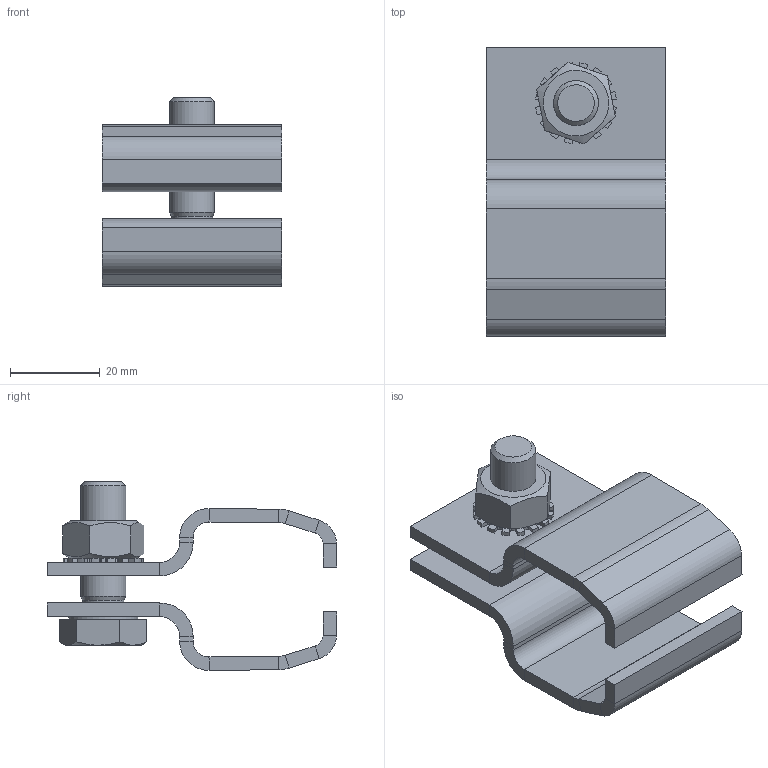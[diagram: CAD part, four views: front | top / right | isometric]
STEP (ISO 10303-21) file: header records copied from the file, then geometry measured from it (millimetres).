
FILE_DESCRIPTION(/* description */ ('Klemme Nr.0'),/* implementation_level */ '2;1');
FILE_NAME(/* name */ 'Q:\sge-ma\Produktmanagement-STB\STB\Workspace\TraceParts\Aufhängeklemme\010336710.stp',/* time_stamp */ '2018-02-21T11:17:11+01:00',/* author */ ('avschreier'),/* organization */ (''),/* preprocessor_version */ 'ST-DEVELOPER v16.1',/* originating_system */ 'Autodesk Inventor 2016',/* authorisation */ '');
FILE_SCHEMA (('CONFIG_CONTROL_DESIGN'));
Length unit declared in the file: millimetre
Products named in the file (5): 000302105; DIN_6798-A_10,5_en; DIN_EN_ISO_4017-M10x30_en; DIN_EN_ISO_4032-M10_en; 010336710
Assembly tree (5 placements, depth 2):
  010336710
    000302105  x2
    DIN_6798-A_10,5_en
    DIN_EN_ISO_4017-M10x30_en
    DIN_EN_ISO_4032-M10_en
Bounding box: 40 x 64.5 x 42 mm (x, y, z)
Volume: 23458.2 mm3; surface area: 16825.2 mm2
Topology: 5 solids, 5 shells, 211 faces, 521 edges, 322 vertices
Faces by surface type: plane 112, cylinder 87, cone 12
Full cylindrical faces by diameter (mm): 8.376 x1, 9.188 x1, 10 x1, 10.5 x1, 11 x2, 15.4 x1
Entity records: 5269 total; most frequent: CARTESIAN_POINT 938, DIRECTION 936, ORIENTED_EDGE 858, EDGE_CURVE 429, AXIS2_PLACEMENT_3D 349, VERTEX_POINT 279, LINE 238, VECTOR 238
